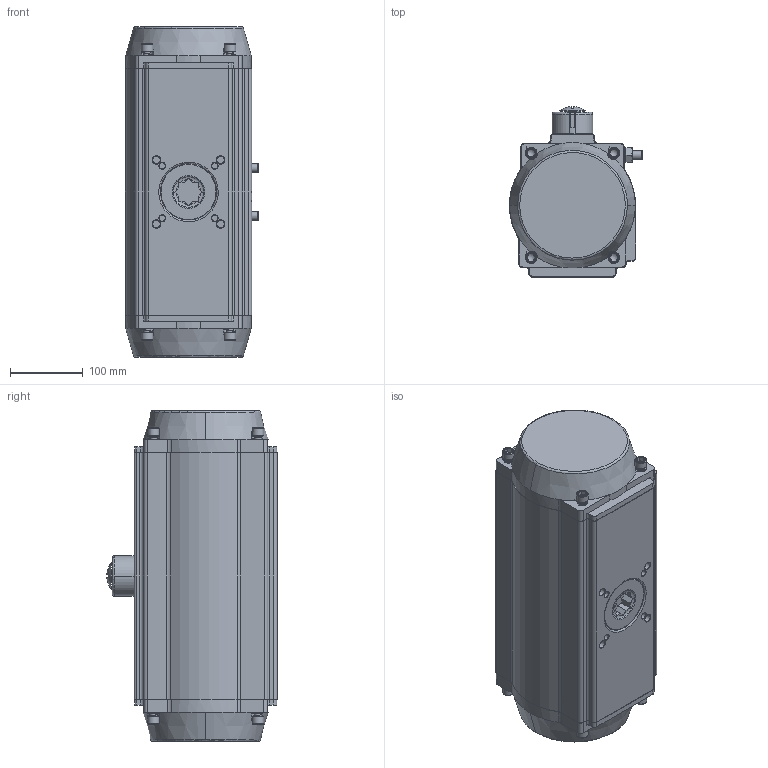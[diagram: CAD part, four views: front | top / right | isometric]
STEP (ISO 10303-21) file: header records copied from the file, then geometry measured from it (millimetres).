
FILE_DESCRIPTION(('STEP AP203'), '1');
FILE_NAME('3D_930-DA_SR-0802-27õ27', '', ('UNSPECIFIED'), ('UNSPECIFIED'), 'C3D Converter', 'C3D Toolkit', '');
FILE_SCHEMA(('CONFIG_CONTROL_DESIGN'));
Length unit declared in the file: millimetre
Assembly tree (44 placements, depth 3):
  (unnamed)
    (unnamed)
    (unnamed)
    (unnamed)
      (unnamed)
      (unnamed)
      (unnamed)
    (unnamed)  x2
    (unnamed)  x2
    (unnamed)  x2
    (unnamed)  x2
    (unnamed)
    (unnamed)
    (unnamed)
    (unnamed)
    (unnamed)
    (unnamed)
    (unnamed)
    (unnamed)
    (unnamed)
    (unnamed)
    (unnamed)  x8
    (unnamed)  x8
    (unnamed)
    (unnamed)
    (unnamed)
    (unnamed)
Bounding box: 183.46 x 234.67 x 456 mm (x, y, z)
Volume: 4806114.5 mm3; surface area: 867357.6 mm2
Topology: 43 solids, 44 shells, 1301 faces, 3310 edges, 2176 vertices
Faces by surface type: plane 540, cylinder 449, bspline 138, cone 110, torus 45, sphere 19
Full cylindrical faces by diameter (mm): 2.5 x2, 4.2 x8, 5 x1, 6 x1, 6.5 x1, 8.5 x12, 9 x2, 10 x10, 10.5 x4, 11 x8, 11.4 x1, 12 x6, 16 x10, 18 x3, 25 x2, 34.2 x1, 36 x2, 37 x1, 40 x9, 40.5 x1, 44 x12, 50 x2, 58 x1, 59 x1, 61 x1, 72.3 x1, 74 x2, 78 x4, 159 x2, 160 x1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
Entity records: 78571 total; most frequent: CARTESIAN_POINT 41134, ORIENTED_EDGE 5576, DIRECTION 5238, EDGE_CURVE 2788, AXIS2_PLACEMENT_3D 2032, VERTEX_POINT 1932, EDGE_LOOP 1398, LINE 1174
